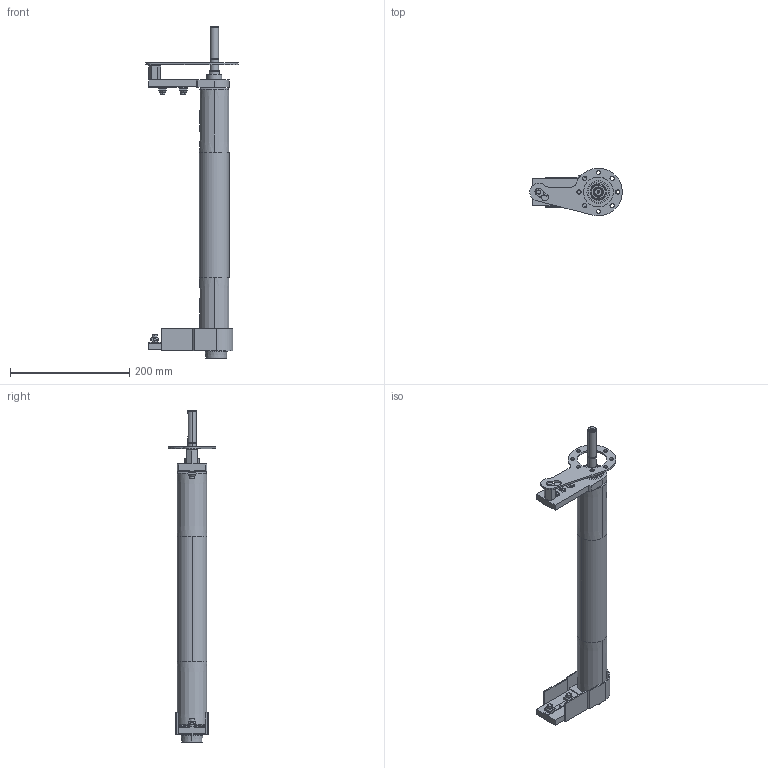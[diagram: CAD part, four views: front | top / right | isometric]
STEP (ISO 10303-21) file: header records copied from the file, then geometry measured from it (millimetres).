
FILE_DESCRIPTION (( 'STEP AP203' ), '1' );
FILE_NAME ('084.050.KDC.30.400.STEP', '2019-07-29T10:16:06', ( '' ), ( '' ), 'SwSTEP 2.0', 'SolidWorks 2018', '' );
FILE_SCHEMA (( 'CONFIG_CONTROL_DESIGN' ));
Length unit declared in the file: millimetre
Products named in the file (14): 084.807.005; 084.807.004_084.807.004; 084.050.KDC.30.400; 084.811.004; 084.815.117_Default<A macchina>; 084.301.000 VITI ALUSIC_084.301.003; 084.811.001; 084.810.001; 084.802.023_084.802.023; VITI TSEI UNI 5933_M4x12 UNI 5933; 084.807.013_084.807.003; 084.302.000 DADI ALUSIC 13x13_084.302.004; 084.802.027; 084.802.017_084.802.017
Assembly tree (22 placements, depth 2):
  084.050.KDC.30.400
    084.807.004_084.807.004
    084.807.013_084.807.003
    084.811.001
    084.802.017_084.802.017  x2
    084.811.004
    084.815.117_Default<A macchina>
    084.810.001  x2
    084.807.005
    084.802.023_084.802.023
    VITI TSEI UNI 5933_M4x12 UNI 5933  x2
    084.802.027
    084.301.000 VITI ALUSIC_084.301.003  x4
    084.302.000 DADI ALUSIC 13x13_084.302.004  x4
Bounding box: 154.99 x 80 x 556.5 mm (x, y, z)
Volume: 524093.8 mm3; surface area: 337837.1 mm2
Topology: 24 solids, 26 shells, 775 faces, 1938 edges, 1256 vertices
Faces by surface type: plane 324, cylinder 241, cone 78, torus 70, bspline 54, sphere 8
Entity records: 19753 total; most frequent: CARTESIAN_POINT 4136, DIRECTION 2921, ORIENTED_EDGE 2872, EDGE_CURVE 1436, AXIS2_PLACEMENT_3D 1109, VERTEX_POINT 936, LINE 703, VECTOR 703
